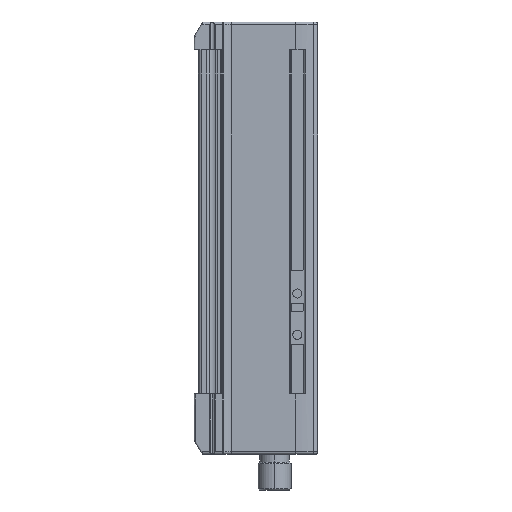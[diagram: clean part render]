
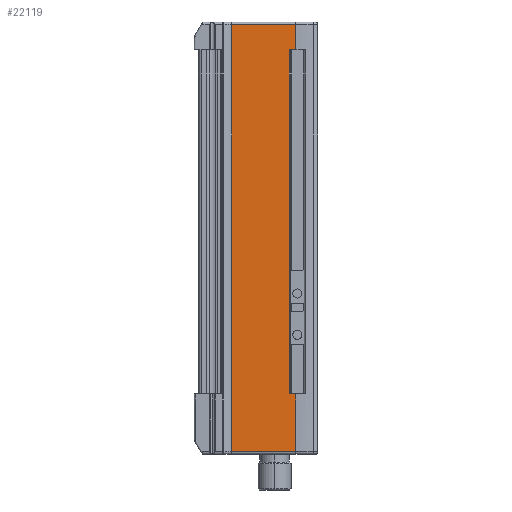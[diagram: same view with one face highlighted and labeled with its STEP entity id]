
A CAD part, left-side view. The second image highlights one B-rep face of the part: STEP entity #22119.
In plain terms, the highlighted planar face has unit normal (-1, 0, 0).
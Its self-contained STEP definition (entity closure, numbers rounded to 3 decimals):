
#339 = DIRECTION ( 'NONE',  ( 0., 1., 0. ) ) ;
#508 = CARTESIAN_POINT ( 'NONE',  ( -22.5, 0., 125. ) ) ;
#925 = DIRECTION ( 'NONE',  ( 0., -1., 0. ) ) ;
#1208 = DIRECTION ( 'NONE',  ( 0., 0., 1. ) ) ;
#2543 = ORIENTED_EDGE ( 'NONE', *, *, #21099, .T. ) ;
#2641 = DIRECTION ( 'NONE',  ( 0., 0., 1. ) ) ;
#2878 = LINE ( 'NONE', #23447, #10265 ) ;
#2914 = LINE ( 'NONE', #22923, #29067 ) ;
#3024 = DIRECTION ( 'NONE',  ( -1., 0., 0. ) ) ;
#3866 = EDGE_CURVE ( 'NONE', #6434, #25878, #20661, .T. ) ;
#4199 = ORIENTED_EDGE ( 'NONE', *, *, #3866, .T. ) ;
#4628 = CARTESIAN_POINT ( 'NONE',  ( -22.5, -12., 0. ) ) ;
#4842 = VERTEX_POINT ( 'NONE', #14850 ) ;
#5757 = VERTEX_POINT ( 'NONE', #13199 ) ;
#6284 = CARTESIAN_POINT ( 'NONE',  ( -22.5, -14.5, 0. ) ) ;
#6434 = VERTEX_POINT ( 'NONE', #6284 ) ;
#6589 = CARTESIAN_POINT ( 'NONE',  ( -22.5, 0., 0. ) ) ;
#6773 = EDGE_CURVE ( 'NONE', #25878, #23237, #28897, .T. ) ;
#7811 = EDGE_CURVE ( 'NONE', #24738, #5757, #11400, .T. ) ;
#8301 = EDGE_LOOP ( 'NONE', ( #22020, #2543, #18269, #18320, #17963, #4199, #10661, #26648 ) ) ;
#8364 = AXIS2_PLACEMENT_3D ( 'NONE', #23176, #3024, #25801 ) ;
#9206 = DIRECTION ( 'NONE',  ( 0., 0., -1. ) ) ;
#9693 = DIRECTION ( 'NONE',  ( 0., 1., 0. ) ) ;
#9944 = CARTESIAN_POINT ( 'NONE',  ( -22.5, -14.5, 147. ) ) ;
#10265 = VECTOR ( 'NONE', #9693, 1000. ) ;
#10532 = VECTOR ( 'NONE', #9206, 1000. ) ;
#10661 = ORIENTED_EDGE ( 'NONE', *, *, #6773, .T. ) ;
#11128 = EDGE_CURVE ( 'NONE', #17324, #23237, #14404, .T. ) ;
#11284 = CARTESIAN_POINT ( 'NONE',  ( -22.5, -14.5, -21. ) ) ;
#11400 = LINE ( 'NONE', #15965, #10532 ) ;
#12054 = DIRECTION ( 'NONE',  ( 0., 1., 0. ) ) ;
#12502 = VECTOR ( 'NONE', #925, 1000. ) ;
#13199 = CARTESIAN_POINT ( 'NONE',  ( -22.5, 8.8, -21. ) ) ;
#13822 = CARTESIAN_POINT ( 'NONE',  ( -22.5, -14.5, -21. ) ) ;
#13968 = FACE_OUTER_BOUND ( 'NONE', #8301, .T. ) ;
#14404 = LINE ( 'NONE', #508, #29054 ) ;
#14850 = CARTESIAN_POINT ( 'NONE',  ( -22.5, -14.5, 134.15 ) ) ;
#15965 = CARTESIAN_POINT ( 'NONE',  ( -22.5, 8.8, 125. ) ) ;
#16317 = VECTOR ( 'NONE', #17739, 1000. ) ;
#17324 = VERTEX_POINT ( 'NONE', #25638 ) ;
#17593 = CARTESIAN_POINT ( 'NONE',  ( -22.5, -12., 125. ) ) ;
#17739 = DIRECTION ( 'NONE',  ( 0., 0., -1. ) ) ;
#17963 = ORIENTED_EDGE ( 'NONE', *, *, #18745, .T. ) ;
#18269 = ORIENTED_EDGE ( 'NONE', *, *, #7811, .T. ) ;
#18320 = ORIENTED_EDGE ( 'NONE', *, *, #18889, .T. ) ;
#18434 = LINE ( 'NONE', #13822, #12502 ) ;
#18745 = EDGE_CURVE ( 'NONE', #19239, #6434, #2914, .T. ) ;
#18889 = EDGE_CURVE ( 'NONE', #5757, #19239, #18434, .T. ) ;
#19239 = VERTEX_POINT ( 'NONE', #11284 ) ;
#19443 = EDGE_CURVE ( 'NONE', #4842, #17324, #23557, .T. ) ;
#19972 = VECTOR ( 'NONE', #1208, 1000. ) ;
#20661 = LINE ( 'NONE', #6589, #25986 ) ;
#21099 = EDGE_CURVE ( 'NONE', #4842, #24738, #2878, .T. ) ;
#22020 = ORIENTED_EDGE ( 'NONE', *, *, #19443, .F. ) ;
#22119 = ADVANCED_FACE ( 'NONE', ( #13968 ), #23311, .T. ) ;
#22923 = CARTESIAN_POINT ( 'NONE',  ( -22.5, -14.5, -22. ) ) ;
#23176 = CARTESIAN_POINT ( 'NONE',  ( -22.5, 0., 125. ) ) ;
#23237 = VERTEX_POINT ( 'NONE', #17593 ) ;
#23311 = PLANE ( 'NONE',  #8364 ) ;
#23447 = CARTESIAN_POINT ( 'NONE',  ( -22.5, 8.8, 134.15 ) ) ;
#23557 = LINE ( 'NONE', #9944, #16317 ) ;
#24738 = VERTEX_POINT ( 'NONE', #25329 ) ;
#25329 = CARTESIAN_POINT ( 'NONE',  ( -22.5, 8.8, 134.15 ) ) ;
#25638 = CARTESIAN_POINT ( 'NONE',  ( -22.5, -14.5, 125. ) ) ;
#25801 = DIRECTION ( 'NONE',  ( 0., 0., 1. ) ) ;
#25878 = VERTEX_POINT ( 'NONE', #4628 ) ;
#25986 = VECTOR ( 'NONE', #339, 1000. ) ;
#26648 = ORIENTED_EDGE ( 'NONE', *, *, #11128, .F. ) ;
#28443 = CARTESIAN_POINT ( 'NONE',  ( -22.5, -12., 125. ) ) ;
#28897 = LINE ( 'NONE', #28443, #19972 ) ;
#29054 = VECTOR ( 'NONE', #12054, 1000. ) ;
#29067 = VECTOR ( 'NONE', #2641, 1000. ) ;
